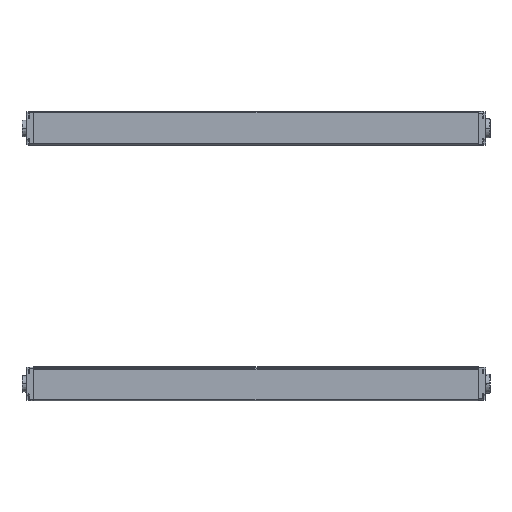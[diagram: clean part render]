
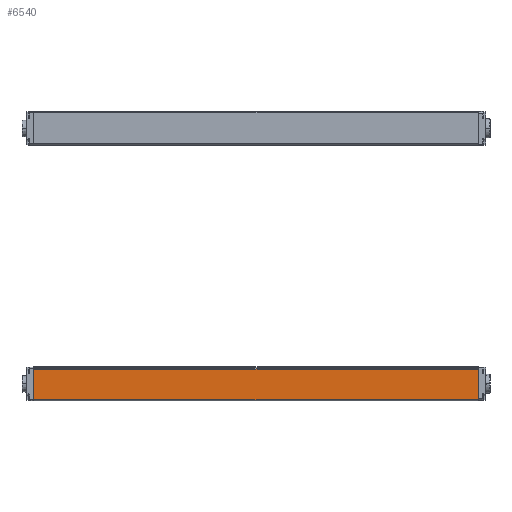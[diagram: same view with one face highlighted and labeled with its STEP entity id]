
A CAD part, left-side view. The second image highlights one B-rep face of the part: STEP entity #6540.
In plain terms, the highlighted planar face has unit normal (-1, 0, -0.009) as drawn and (1, 0, 0) by its records, which use the part's own axes.
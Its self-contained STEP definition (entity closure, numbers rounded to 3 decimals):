
#131 = CARTESIAN_POINT ( 'NONE',  ( 15., 400., -16.9 ) ) ;
#364 = FACE_OUTER_BOUND ( 'NONE', #9893, .T. ) ;
#1400 = CARTESIAN_POINT ( 'NONE',  ( 15., 400., -16.693 ) ) ;
#2039 = CARTESIAN_POINT ( 'NONE',  ( 15., 0., 10.9 ) ) ;
#2639 = ORIENTED_EDGE ( 'NONE', *, *, #3173, .T. ) ;
#2693 = CARTESIAN_POINT ( 'NONE',  ( 15., 400., 10.9 ) ) ;
#2897 = EDGE_CURVE ( 'NONE', #16524, #14523, #10735, .T. ) ;
#3173 = EDGE_CURVE ( 'NONE', #17361, #12390, #15172, .T. ) ;
#3180 = DIRECTION ( 'NONE',  ( 0., 0., -1. ) ) ;
#3830 = DIRECTION ( 'NONE',  ( 0., 1., 0. ) ) ;
#3997 = ORIENTED_EDGE ( 'NONE', *, *, #2897, .T. ) ;
#4375 = ORIENTED_EDGE ( 'NONE', *, *, #15260, .F. ) ;
#4548 = DIRECTION ( 'NONE',  ( 0., 0., 1. ) ) ;
#4980 = VECTOR ( 'NONE', #5685, 1000. ) ;
#5605 = EDGE_CURVE ( 'NONE', #12390, #16524, #10090, .T. ) ;
#5685 = DIRECTION ( 'NONE',  ( 0., 0., -1. ) ) ;
#5906 = PLANE ( 'NONE',  #10470 ) ;
#6540 = ADVANCED_FACE ( 'NONE', ( #364 ), #5906, .F. ) ;
#8192 = VECTOR ( 'NONE', #8244, 1000. ) ;
#8244 = DIRECTION ( 'NONE',  ( 0., -1., 0. ) ) ;
#8868 = ORIENTED_EDGE ( 'NONE', *, *, #5605, .T. ) ;
#9893 = EDGE_LOOP ( 'NONE', ( #8868, #3997, #4375, #2639 ) ) ;
#10090 = LINE ( 'NONE', #15648, #11483 ) ;
#10470 = AXIS2_PLACEMENT_3D ( 'NONE', #11447, #17019, #4548 ) ;
#10735 = LINE ( 'NONE', #16305, #11883 ) ;
#11447 = CARTESIAN_POINT ( 'NONE',  ( 15., 400., -16.9 ) ) ;
#11483 = VECTOR ( 'NONE', #3180, 1000. ) ;
#11883 = VECTOR ( 'NONE', #3830, 1000. ) ;
#12390 = VERTEX_POINT ( 'NONE', #2039 ) ;
#12555 = CARTESIAN_POINT ( 'NONE',  ( 15., 0., -16.693 ) ) ;
#12594 = LINE ( 'NONE', #131, #4980 ) ;
#14523 = VERTEX_POINT ( 'NONE', #1400 ) ;
#15172 = LINE ( 'NONE', #2693, #8192 ) ;
#15260 = EDGE_CURVE ( 'NONE', #17361, #14523, #12594, .T. ) ;
#15648 = CARTESIAN_POINT ( 'NONE',  ( 15., 0., -16.9 ) ) ;
#16305 = CARTESIAN_POINT ( 'NONE',  ( 15., 400., -16.693 ) ) ;
#16524 = VERTEX_POINT ( 'NONE', #12555 ) ;
#16538 = CARTESIAN_POINT ( 'NONE',  ( 15., 400., 10.9 ) ) ;
#17019 = DIRECTION ( 'NONE',  ( -1., 0., 0. ) ) ;
#17361 = VERTEX_POINT ( 'NONE', #16538 ) ;
